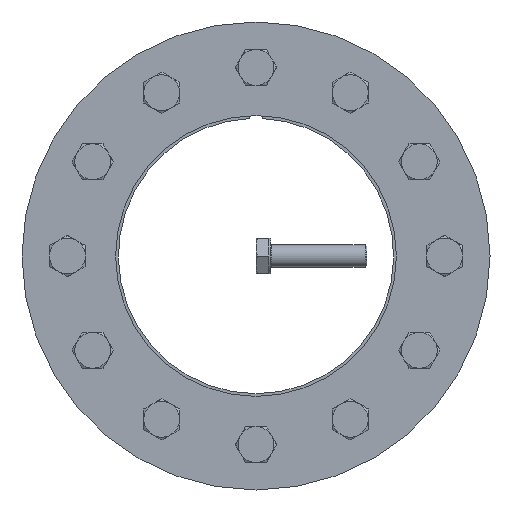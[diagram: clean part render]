
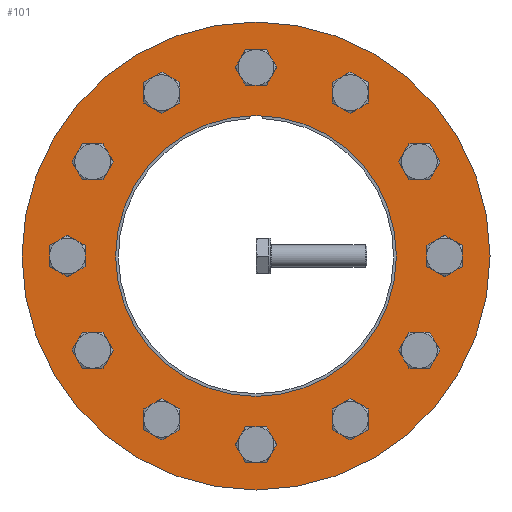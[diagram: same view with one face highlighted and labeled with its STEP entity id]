
A CAD part, front view. The second image highlights one B-rep face of the part: STEP entity #101.
In plain terms, the highlighted planar face has unit normal (0, -1, 0).
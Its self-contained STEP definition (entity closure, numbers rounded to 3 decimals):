
#101 = ADVANCED_FACE( '', ( #241, #242, #243, #244, #245, #246, #247, #248, #249, #250, #251, #252, #253, #254 ), #255, .F. );
#241 = FACE_BOUND( '', #502, .T. );
#242 = FACE_BOUND( '', #503, .T. );
#243 = FACE_BOUND( '', #504, .T. );
#244 = FACE_BOUND( '', #505, .T. );
#245 = FACE_BOUND( '', #506, .T. );
#246 = FACE_BOUND( '', #507, .T. );
#247 = FACE_BOUND( '', #508, .T. );
#248 = FACE_OUTER_BOUND( '', #509, .T. );
#249 = FACE_BOUND( '', #510, .T. );
#250 = FACE_BOUND( '', #511, .T. );
#251 = FACE_BOUND( '', #512, .T. );
#252 = FACE_BOUND( '', #513, .T. );
#253 = FACE_BOUND( '', #514, .T. );
#254 = FACE_BOUND( '', #515, .T. );
#255 = PLANE( '', #516 );
#502 = EDGE_LOOP( '', ( #812 ) );
#503 = EDGE_LOOP( '', ( #813 ) );
#504 = EDGE_LOOP( '', ( #814 ) );
#505 = EDGE_LOOP( '', ( #815 ) );
#506 = EDGE_LOOP( '', ( #816 ) );
#507 = EDGE_LOOP( '', ( #817 ) );
#508 = EDGE_LOOP( '', ( #818 ) );
#509 = EDGE_LOOP( '', ( #819 ) );
#510 = EDGE_LOOP( '', ( #820 ) );
#511 = EDGE_LOOP( '', ( #821 ) );
#512 = EDGE_LOOP( '', ( #822 ) );
#513 = EDGE_LOOP( '', ( #823 ) );
#514 = EDGE_LOOP( '', ( #824 ) );
#515 = EDGE_LOOP( '', ( #825 ) );
#516 = AXIS2_PLACEMENT_3D( '', #826, #827, #828 );
#812 = ORIENTED_EDGE( '', *, *, #1227, .T. );
#813 = ORIENTED_EDGE( '', *, *, #1228, .T. );
#814 = ORIENTED_EDGE( '', *, *, #1213, .T. );
#815 = ORIENTED_EDGE( '', *, *, #1229, .T. );
#816 = ORIENTED_EDGE( '', *, *, #1230, .T. );
#817 = ORIENTED_EDGE( '', *, *, #1201, .T. );
#818 = ORIENTED_EDGE( '', *, *, #1231, .F. );
#819 = ORIENTED_EDGE( '', *, *, #1232, .T. );
#820 = ORIENTED_EDGE( '', *, *, #1233, .T. );
#821 = ORIENTED_EDGE( '', *, *, #1234, .T. );
#822 = ORIENTED_EDGE( '', *, *, #1235, .T. );
#823 = ORIENTED_EDGE( '', *, *, #1236, .T. );
#824 = ORIENTED_EDGE( '', *, *, #1210, .T. );
#825 = ORIENTED_EDGE( '', *, *, #1237, .T. );
#826 = CARTESIAN_POINT( '', ( 0., -22., 85. ) );
#827 = DIRECTION( '', ( 0., 1., 0. ) );
#828 = DIRECTION( '', ( 0., 0., 1. ) );
#1201 = EDGE_CURVE( '', #1399, #1399, #1400, .T. );
#1210 = EDGE_CURVE( '', #1414, #1414, #1415, .T. );
#1213 = EDGE_CURVE( '', #1419, #1419, #1420, .T. );
#1227 = EDGE_CURVE( '', #1445, #1445, #1446, .T. );
#1228 = EDGE_CURVE( '', #1447, #1447, #1448, .T. );
#1229 = EDGE_CURVE( '', #1449, #1449, #1450, .T. );
#1230 = EDGE_CURVE( '', #1451, #1451, #1452, .T. );
#1231 = EDGE_CURVE( '', #1453, #1453, #1454, .T. );
#1232 = EDGE_CURVE( '', #1455, #1455, #1456, .T. );
#1233 = EDGE_CURVE( '', #1457, #1457, #1458, .T. );
#1234 = EDGE_CURVE( '', #1459, #1459, #1460, .T. );
#1235 = EDGE_CURVE( '', #1461, #1461, #1462, .T. );
#1236 = EDGE_CURVE( '', #1463, #1463, #1464, .T. );
#1237 = EDGE_CURVE( '', #1465, #1465, #1466, .T. );
#1399 = VERTEX_POINT( '', #1790 );
#1400 = CIRCLE( '', #1791, 4. );
#1414 = VERTEX_POINT( '', #1805 );
#1415 = CIRCLE( '', #1806, 4. );
#1419 = VERTEX_POINT( '', #1810 );
#1420 = CIRCLE( '', #1811, 4. );
#1445 = VERTEX_POINT( '', #1851 );
#1446 = CIRCLE( '', #1852, 4. );
#1447 = VERTEX_POINT( '', #1853 );
#1448 = CIRCLE( '', #1854, 4. );
#1449 = VERTEX_POINT( '', #1855 );
#1450 = CIRCLE( '', #1856, 4. );
#1451 = VERTEX_POINT( '', #1857 );
#1452 = CIRCLE( '', #1858, 4. );
#1453 = VERTEX_POINT( '', #1859 );
#1454 = CIRCLE( '', #1860, 51. );
#1455 = VERTEX_POINT( '', #1861 );
#1456 = CIRCLE( '', #1862, 85. );
#1457 = VERTEX_POINT( '', #1863 );
#1458 = CIRCLE( '', #1864, 4. );
#1459 = VERTEX_POINT( '', #1865 );
#1460 = CIRCLE( '', #1866, 4. );
#1461 = VERTEX_POINT( '', #1867 );
#1462 = CIRCLE( '', #1868, 4. );
#1463 = VERTEX_POINT( '', #1869 );
#1464 = CIRCLE( '', #1870, 4. );
#1465 = VERTEX_POINT( '', #1871 );
#1466 = CIRCLE( '', #1872, 4. );
#1790 = CARTESIAN_POINT( '', ( 4., -22., 68.5 ) );
#1791 = AXIS2_PLACEMENT_3D( '', #2095, #2096, #2097 );
#1805 = CARTESIAN_POINT( '', ( -68.5, -22., 4. ) );
#1806 = AXIS2_PLACEMENT_3D( '', #2113, #2114, #2115 );
#1810 = CARTESIAN_POINT( '', ( -4., -22., -68.5 ) );
#1811 = AXIS2_PLACEMENT_3D( '', #2119, #2120, #2121 );
#1851 = CARTESIAN_POINT( '', ( -57.323, -22., 37.714 ) );
#1852 = AXIS2_PLACEMENT_3D( '', #2131, #2132, #2133 );
#1853 = CARTESIAN_POINT( '', ( -61.323, -22., -30.786 ) );
#1854 = AXIS2_PLACEMENT_3D( '', #2134, #2135, #2136 );
#1855 = CARTESIAN_POINT( '', ( 57.323, -22., -37.714 ) );
#1856 = AXIS2_PLACEMENT_3D( '', #2137, #2138, #2139 );
#1857 = CARTESIAN_POINT( '', ( 61.323, -22., 30.786 ) );
#1858 = AXIS2_PLACEMENT_3D( '', #2140, #2141, #2142 );
#1859 = CARTESIAN_POINT( '', ( 0., -22., -51. ) );
#1860 = AXIS2_PLACEMENT_3D( '', #2143, #2144, #2145 );
#1861 = CARTESIAN_POINT( '', ( 0., -22., -85. ) );
#1862 = AXIS2_PLACEMENT_3D( '', #2146, #2147, #2148 );
#1863 = CARTESIAN_POINT( '', ( 37.714, -22., 57.323 ) );
#1864 = AXIS2_PLACEMENT_3D( '', #2149, #2150, #2151 );
#1865 = CARTESIAN_POINT( '', ( 68.5, -22., -4. ) );
#1866 = AXIS2_PLACEMENT_3D( '', #2152, #2153, #2154 );
#1867 = CARTESIAN_POINT( '', ( 30.786, -22., -61.323 ) );
#1868 = AXIS2_PLACEMENT_3D( '', #2155, #2156, #2157 );
#1869 = CARTESIAN_POINT( '', ( -37.714, -22., -57.323 ) );
#1870 = AXIS2_PLACEMENT_3D( '', #2158, #2159, #2160 );
#1871 = CARTESIAN_POINT( '', ( -30.786, -22., 61.323 ) );
#1872 = AXIS2_PLACEMENT_3D( '', #2161, #2162, #2163 );
#2095 = CARTESIAN_POINT( '', ( 0., -22., 68.5 ) );
#2096 = DIRECTION( '', ( 0., 1., 0. ) );
#2097 = DIRECTION( '', ( 1., 0., 0. ) );
#2113 = CARTESIAN_POINT( '', ( -68.5, -22., 0. ) );
#2114 = DIRECTION( '', ( 0., 1., 0. ) );
#2115 = DIRECTION( '', ( 0., 0., 1. ) );
#2119 = CARTESIAN_POINT( '', ( 0., -22., -68.5 ) );
#2120 = DIRECTION( '', ( 0., 1., 0. ) );
#2121 = DIRECTION( '', ( -1., 0., 0. ) );
#2131 = CARTESIAN_POINT( '', ( -59.323, -22., 34.25 ) );
#2132 = DIRECTION( '', ( 0., 1., 0. ) );
#2133 = DIRECTION( '', ( 0.5, 0., 0.866 ) );
#2134 = CARTESIAN_POINT( '', ( -59.323, -22., -34.25 ) );
#2135 = DIRECTION( '', ( 0., 1., 0. ) );
#2136 = DIRECTION( '', ( -0.5, 0., 0.866 ) );
#2137 = CARTESIAN_POINT( '', ( 59.323, -22., -34.25 ) );
#2138 = DIRECTION( '', ( 0., 1., 0. ) );
#2139 = DIRECTION( '', ( -0.5, 0., -0.866 ) );
#2140 = CARTESIAN_POINT( '', ( 59.323, -22., 34.25 ) );
#2141 = DIRECTION( '', ( 0., 1., 0. ) );
#2142 = DIRECTION( '', ( 0.5, 0., -0.866 ) );
#2143 = CARTESIAN_POINT( '', ( 0., -22., 0. ) );
#2144 = DIRECTION( '', ( 0., -1., 0. ) );
#2145 = DIRECTION( '', ( 0., 0., -1. ) );
#2146 = CARTESIAN_POINT( '', ( 0., -22., 0. ) );
#2147 = DIRECTION( '', ( 0., -1., 0. ) );
#2148 = DIRECTION( '', ( 0., 0., -1. ) );
#2149 = CARTESIAN_POINT( '', ( 34.25, -22., 59.323 ) );
#2150 = DIRECTION( '', ( 0., 1., 0. ) );
#2151 = DIRECTION( '', ( 0.866, 0., -0.5 ) );
#2152 = CARTESIAN_POINT( '', ( 68.5, -22., 0. ) );
#2153 = DIRECTION( '', ( 0., 1., 0. ) );
#2154 = DIRECTION( '', ( 0., 0., -1. ) );
#2155 = CARTESIAN_POINT( '', ( 34.25, -22., -59.323 ) );
#2156 = DIRECTION( '', ( 0., 1., 0. ) );
#2157 = DIRECTION( '', ( -0.866, 0., -0.5 ) );
#2158 = CARTESIAN_POINT( '', ( -34.25, -22., -59.323 ) );
#2159 = DIRECTION( '', ( 0., 1., 0. ) );
#2160 = DIRECTION( '', ( -0.866, 0., 0.5 ) );
#2161 = CARTESIAN_POINT( '', ( -34.25, -22., 59.323 ) );
#2162 = DIRECTION( '', ( 0., 1., 0. ) );
#2163 = DIRECTION( '', ( 0.866, 0., 0.5 ) );
